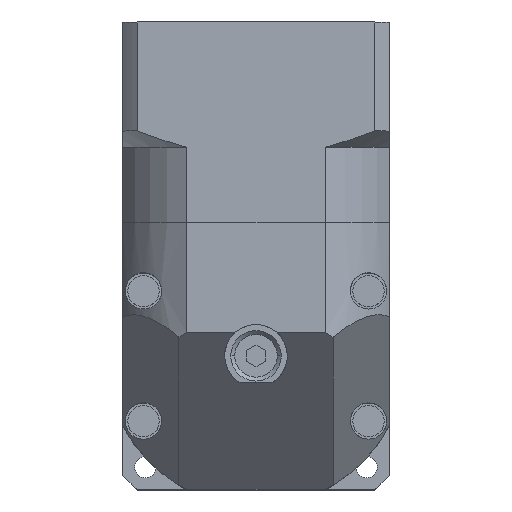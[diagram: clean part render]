
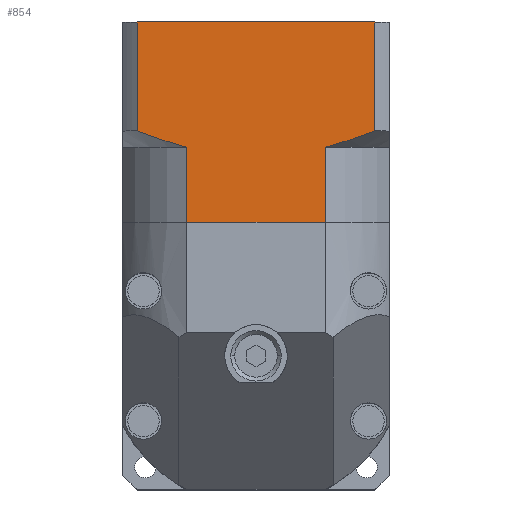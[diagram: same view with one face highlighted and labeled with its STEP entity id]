
A CAD part, top view. The second image highlights one B-rep face of the part: STEP entity #854.
In plain terms, the highlighted planar face has unit normal (0, 0, 1) as drawn and (0, -1, 0) by its records, which use the part's own axes.
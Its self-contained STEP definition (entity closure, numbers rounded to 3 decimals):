
#193 = VERTEX_POINT ( 'NONE', #1318 ) ;
#387 = CARTESIAN_POINT ( 'NONE',  ( -18.936, -21.3, 14.598 ) ) ;
#435 = ORIENTED_EDGE ( 'NONE', *, *, #1242, .F. ) ;
#778 = LINE ( 'NONE', #6609, #11162 ) ;
#854 = ADVANCED_FACE ( 'NONE', ( #2473 ), #9016, .F. ) ;
#871 = EDGE_LOOP ( 'NONE', ( #6446, #7504, #9066, #3818, #4189, #8651, #964, #435 ) ) ;
#964 = ORIENTED_EDGE ( 'NONE', *, *, #4263, .F. ) ;
#969 = CARTESIAN_POINT ( 'NONE',  ( 18.936, -21.3, 14.598 ) ) ;
#1207 = CARTESIAN_POINT ( 'NONE',  ( -18.936, -21.3, 32. ) ) ;
#1242 = EDGE_CURVE ( 'NONE', #7700, #9681, #2224, .T. ) ;
#1318 = CARTESIAN_POINT ( 'NONE',  ( 11.059, -21.3, 0. ) ) ;
#1433 = CARTESIAN_POINT ( 'NONE',  ( 13.736, -21.3, 12.712 ) ) ;
#1928 = DIRECTION ( 'NONE',  ( 0., 1., 0. ) ) ;
#2224 = B_SPLINE_CURVE_WITH_KNOTS ( 'NONE', 3,
 ( #7442, #9236, #10110, #387 ),
 .UNSPECIFIED., .F., .F.,
 ( 4, 4 ),
 ( 0., 0.008 ),
 .UNSPECIFIED. ) ;
#2303 = CARTESIAN_POINT ( 'NONE',  ( 16.352, -21.3, 13.607 ) ) ;
#2469 = CARTESIAN_POINT ( 'NONE',  ( -18.936, -21.3, 14.598 ) ) ;
#2473 = FACE_OUTER_BOUND ( 'NONE', #871, .T. ) ;
#2671 = VERTEX_POINT ( 'NONE', #1207 ) ;
#2692 = VECTOR ( 'NONE', #3345, 1000. ) ;
#2892 = CARTESIAN_POINT ( 'NONE',  ( 0., -21.3, 0. ) ) ;
#3024 = EDGE_CURVE ( 'NONE', #7784, #193, #6305, .T. ) ;
#3191 = DIRECTION ( 'NONE',  ( 1., 0., 0. ) ) ;
#3328 = VERTEX_POINT ( 'NONE', #3529 ) ;
#3345 = DIRECTION ( 'NONE',  ( 0., 0., 1. ) ) ;
#3529 = CARTESIAN_POINT ( 'NONE',  ( -11.059, -21.3, 0. ) ) ;
#3535 = LINE ( 'NONE', #4226, #2692 ) ;
#3818 = ORIENTED_EDGE ( 'NONE', *, *, #10665, .F. ) ;
#4072 = DIRECTION ( 'NONE',  ( 0., 0., -1. ) ) ;
#4189 = ORIENTED_EDGE ( 'NONE', *, *, #5575, .F. ) ;
#4226 = CARTESIAN_POINT ( 'NONE',  ( -18.936, -21.3, 32. ) ) ;
#4263 = EDGE_CURVE ( 'NONE', #9681, #2671, #3535, .T. ) ;
#4764 = CARTESIAN_POINT ( 'NONE',  ( 18.936, -21.3, 32. ) ) ;
#4891 = DIRECTION ( 'NONE',  ( 0., 0., 1. ) ) ;
#5575 = EDGE_CURVE ( 'NONE', #8479, #10431, #778, .T. ) ;
#5598 = AXIS2_PLACEMENT_3D ( 'NONE', #8098, #1928, #6454 ) ;
#5696 = VECTOR ( 'NONE', #7161, 1000. ) ;
#5864 = LINE ( 'NONE', #11234, #10291 ) ;
#6281 = DIRECTION ( 'NONE',  ( 0., 0., -1. ) ) ;
#6305 = LINE ( 'NONE', #10756, #9499 ) ;
#6446 = ORIENTED_EDGE ( 'NONE', *, *, #9106, .F. ) ;
#6454 = DIRECTION ( 'NONE',  ( -1., 0., 0. ) ) ;
#6588 = VECTOR ( 'NONE', #4891, 1000. ) ;
#6609 = CARTESIAN_POINT ( 'NONE',  ( 18.936, -21.3, 32. ) ) ;
#7161 = DIRECTION ( 'NONE',  ( 1., 0., 0. ) ) ;
#7442 = CARTESIAN_POINT ( 'NONE',  ( -11.059, -21.3, 12. ) ) ;
#7504 = ORIENTED_EDGE ( 'NONE', *, *, #11073, .T. ) ;
#7514 = CARTESIAN_POINT ( 'NONE',  ( -11.059, -21.3, 32. ) ) ;
#7556 = LINE ( 'NONE', #7514, #6588 ) ;
#7700 = VERTEX_POINT ( 'NONE', #9731 ) ;
#7784 = VERTEX_POINT ( 'NONE', #8873 ) ;
#8065 = B_SPLINE_CURVE_WITH_KNOTS ( 'NONE', 3,
 ( #10195, #2303, #1433, #8409 ),
 .UNSPECIFIED., .F., .F.,
 ( 4, 4 ),
 ( 0., 0.008 ),
 .UNSPECIFIED. ) ;
#8067 = LINE ( 'NONE', #2892, #5696 ) ;
#8098 = CARTESIAN_POINT ( 'NONE',  ( -18.936, -21.3, 32. ) ) ;
#8409 = CARTESIAN_POINT ( 'NONE',  ( 11.059, -21.3, 12. ) ) ;
#8479 = VERTEX_POINT ( 'NONE', #4764 ) ;
#8651 = ORIENTED_EDGE ( 'NONE', *, *, #10230, .F. ) ;
#8873 = CARTESIAN_POINT ( 'NONE',  ( 11.059, -21.3, 12. ) ) ;
#9016 = PLANE ( 'NONE',  #5598 ) ;
#9066 = ORIENTED_EDGE ( 'NONE', *, *, #3024, .F. ) ;
#9106 = EDGE_CURVE ( 'NONE', #3328, #7700, #7556, .T. ) ;
#9236 = CARTESIAN_POINT ( 'NONE',  ( -13.736, -21.3, 12.712 ) ) ;
#9499 = VECTOR ( 'NONE', #6281, 1000. ) ;
#9681 = VERTEX_POINT ( 'NONE', #2469 ) ;
#9731 = CARTESIAN_POINT ( 'NONE',  ( -11.059, -21.3, 12. ) ) ;
#10110 = CARTESIAN_POINT ( 'NONE',  ( -16.352, -21.3, 13.607 ) ) ;
#10195 = CARTESIAN_POINT ( 'NONE',  ( 18.936, -21.3, 14.598 ) ) ;
#10230 = EDGE_CURVE ( 'NONE', #2671, #8479, #5864, .T. ) ;
#10291 = VECTOR ( 'NONE', #3191, 1000. ) ;
#10431 = VERTEX_POINT ( 'NONE', #969 ) ;
#10665 = EDGE_CURVE ( 'NONE', #10431, #7784, #8065, .T. ) ;
#10756 = CARTESIAN_POINT ( 'NONE',  ( 11.059, -21.3, 0. ) ) ;
#11073 = EDGE_CURVE ( 'NONE', #3328, #193, #8067, .T. ) ;
#11162 = VECTOR ( 'NONE', #4072, 1000. ) ;
#11234 = CARTESIAN_POINT ( 'NONE',  ( -18.936, -21.3, 32. ) ) ;
